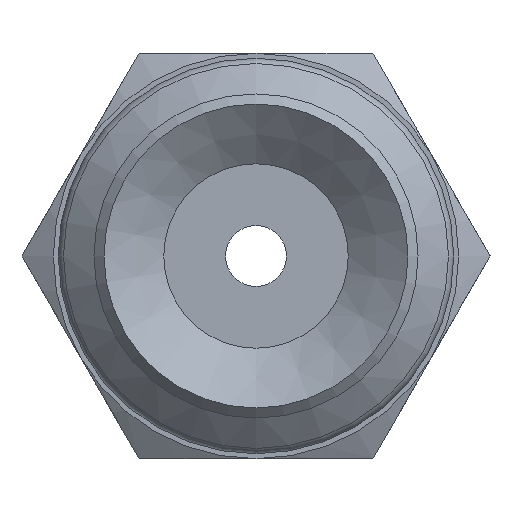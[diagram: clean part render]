
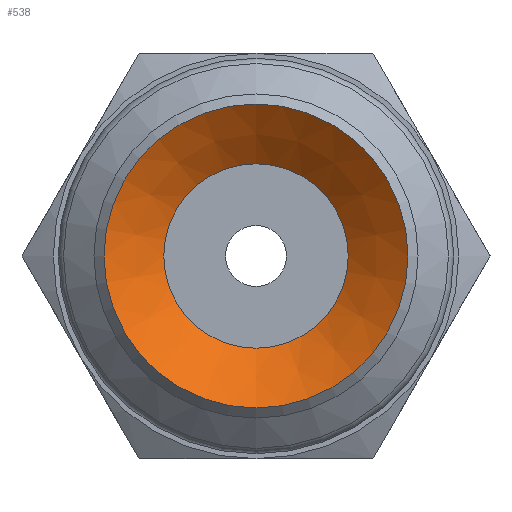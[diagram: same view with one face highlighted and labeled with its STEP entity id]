
A CAD part, front view. The second image highlights one B-rep face of the part: STEP entity #538.
In plain terms, the highlighted conical face has half-angle 52 degrees and reference radius 1.82 mm.
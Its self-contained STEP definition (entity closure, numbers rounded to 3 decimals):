
#538=ADVANCED_FACE('',(#771,#772),#773,.F.);
#771=FACE_BOUND('',#1059,.T.);
#772=FACE_OUTER_BOUND('',#1060,.T.);
#773=CONICAL_SURFACE('',#1061,1.82,0.908);
#1059=EDGE_LOOP('',(#1689));
#1060=EDGE_LOOP('',(#1690));
#1061=AXIS2_PLACEMENT_3D('',#1691,#1692,#1693);
#1689=ORIENTED_EDGE('',*,*,#2018,.F.);
#1690=ORIENTED_EDGE('',*,*,#2019,.T.);
#1691=CARTESIAN_POINT('',(0.0,6.889,0.0));
#1692=DIRECTION('',(-0.0,-1.0,0.));
#1693=DIRECTION('',(0.0,0.,-1.0));
#2018=EDGE_CURVE('',#2310,#2310,#2311,.T.);
#2019=EDGE_CURVE('',#2312,#2312,#2313,.T.);
#2310=VERTEX_POINT('',#2934);
#2311=CIRCLE('',#2935,1.82);
#2312=VERTEX_POINT('',#2936);
#2313=CIRCLE('',#2937,3.0);
#2934=CARTESIAN_POINT('',(0.0,6.889,-1.82));
#2935=AXIS2_PLACEMENT_3D('',#3257,#3258,#3259);
#2936=CARTESIAN_POINT('',(0.0,5.967,-3.0));
#2937=AXIS2_PLACEMENT_3D('',#3260,#3261,#3262);
#3257=CARTESIAN_POINT('',(0.0,6.889,0.0));
#3258=DIRECTION('',(0.0,-1.0,0.));
#3259=DIRECTION('',(0.0,0.,-1.0));
#3260=CARTESIAN_POINT('',(0.0,5.967,0.0));
#3261=DIRECTION('',(0.0,-1.0,0.));
#3262=DIRECTION('',(0.0,0.,-1.0));
